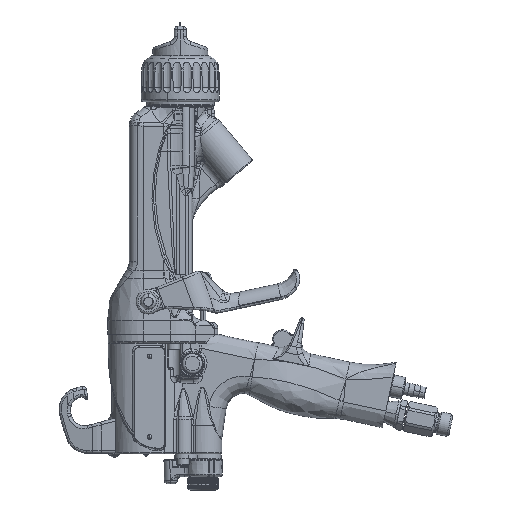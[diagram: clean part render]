
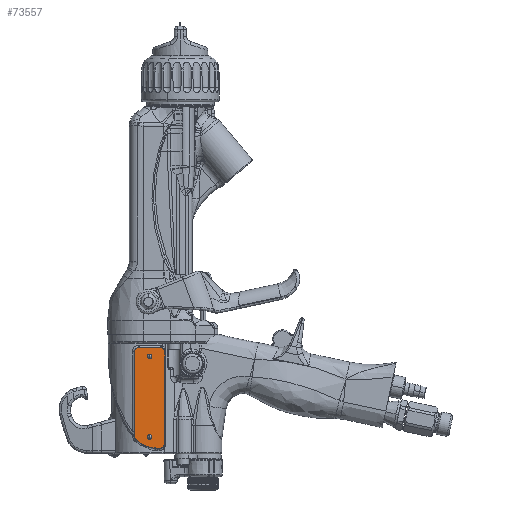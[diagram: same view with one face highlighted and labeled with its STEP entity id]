
A CAD part, left-side view. The second image highlights one B-rep face of the part: STEP entity #73557.
In plain terms, the highlighted planar face has unit normal (-1, -0.001, 0).
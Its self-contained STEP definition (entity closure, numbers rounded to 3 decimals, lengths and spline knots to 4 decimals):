
#65440=CARTESIAN_POINT('',(-0.7552,0.4544,-6.265));
#65441=DIRECTION('',(-1.,-0.001,0.));
#65442=DIRECTION('',(0.001,-1.,0.));
#65443=AXIS2_PLACEMENT_3D('',#65440,#65441,#65442);
#65445=DIRECTION('',(0.,0.,1.));
#65446=VECTOR('',#65445,2.062);
#65447=CARTESIAN_POINT('',(-0.7552,0.356,-8.327));
#65448=LINE('',#65447,#65446);
#65449=CARTESIAN_POINT('',(-0.7552,0.4544,-8.327));
#65450=DIRECTION('',(-1.,-0.001,0.));
#65451=DIRECTION('',(0.,0.,-1.));
#65452=AXIS2_PLACEMENT_3D('',#65449,#65450,#65451);
#65454=DIRECTION('',(0.001,-1.,0.));
#65455=VECTOR('',#65454,0.087);
#65456=CARTESIAN_POINT('',(-0.7553,0.5414,
-8.4255));
#65457=LINE('',#65456,#65455);
#65458=CARTESIAN_POINT('',(-0.7553,0.5414,-7.787));
#65459=DIRECTION('',(-1.,-0.001,0.));
#65460=DIRECTION('',(-0.001,0.713,-0.701));
#65461=AXIS2_PLACEMENT_3D('',#65458,#65459,#65460);
#65463=CARTESIAN_POINT('',(-0.7556,0.9194,
-8.1585));
#65464=DIRECTION('',(-1.,-0.001,0.));
#65465=DIRECTION('',(-0.001,1.,0.));
#65466=AXIS2_PLACEMENT_3D('',#65463,#65464,#65465);
#65468=DIRECTION('',(0.,0.,-1.));
#65469=VECTOR('',#65468,1.8935);
#65470=CARTESIAN_POINT('',(-0.7557,1.0279,-6.265));
#65471=LINE('',#65470,#65469);
#65472=CARTESIAN_POINT('',(-0.7556,0.9294,-6.265));
#65473=DIRECTION('',(-1.,-0.001,0.));
#65474=DIRECTION('',(0.,0.,1.));
#65475=AXIS2_PLACEMENT_3D('',#65472,#65473,#65474);
#65477=DIRECTION('',(0.001,-1.,0.));
#65478=VECTOR('',#65477,0.475);
#65479=CARTESIAN_POINT('',(-0.7556,0.9294,
-6.1665));
#65480=LINE('',#65479,#65478);
#70036=CARTESIAN_POINT('',(-0.7552,0.356,-6.265));
#70037=CARTESIAN_POINT('',(-0.7552,0.4544,
-6.1665));
#70038=VERTEX_POINT('',#70036);
#70039=VERTEX_POINT('',#70037);
#70040=CARTESIAN_POINT('',(-0.7556,0.9294,
-6.1665));
#70041=VERTEX_POINT('',#70040);
#70042=CARTESIAN_POINT('',(-0.7557,1.0279,-6.265));
#70043=VERTEX_POINT('',#70042);
#70044=CARTESIAN_POINT('',(-0.7557,1.0279,
-8.1585));
#70045=VERTEX_POINT('',#70044);
#70046=CARTESIAN_POINT('',(-0.7556,0.9968,
-8.2345));
#70047=VERTEX_POINT('',#70046);
#70048=CARTESIAN_POINT('',(-0.7553,0.5414,
-8.4255));
#70049=VERTEX_POINT('',#70048);
#70050=CARTESIAN_POINT('',(-0.7552,0.4544,
-8.4255));
#70051=VERTEX_POINT('',#70050);
#70052=CARTESIAN_POINT('',(-0.7552,0.356,-8.327));
#70053=VERTEX_POINT('',#70052);
#73532=CARTESIAN_POINT('',(-0.755,0.1294,-5.595));
#73533=DIRECTION('',(1.,0.001,0.));
#73534=DIRECTION('',(0.,0.,-1.));
#73535=AXIS2_PLACEMENT_3D('',#73532,#73533,#73534);
#73536=PLANE('',#73535);
#73538=ORIENTED_EDGE('',*,*,#73537,.F.);
#73540=ORIENTED_EDGE('',*,*,#73539,.F.);
#73542=ORIENTED_EDGE('',*,*,#73541,.F.);
#73544=ORIENTED_EDGE('',*,*,#73543,.F.);
#73546=ORIENTED_EDGE('',*,*,#73545,.F.);
#73548=ORIENTED_EDGE('',*,*,#73547,.F.);
#73550=ORIENTED_EDGE('',*,*,#73549,.F.);
#73552=ORIENTED_EDGE('',*,*,#73551,.F.);
#73554=ORIENTED_EDGE('',*,*,#73553,.T.);
#73555=EDGE_LOOP('',(#73538,#73540,#73542,#73544,#73546,#73548,#73550,#73552,
#73554));
#73556=FACE_OUTER_BOUND('',#73555,.F.);
#73557=ADVANCED_FACE('',(#73556),#73536,.F.);
#65444=CIRCLE('',#65443,0.0985);
#65453=CIRCLE('',#65452,0.0985);
#65462=CIRCLE('',#65461,0.6385);
#65467=CIRCLE('',#65466,0.1085);
#65476=CIRCLE('',#65475,0.0985);
#73537=EDGE_CURVE('',#70038,#70039,#65444,.T.);
#73539=EDGE_CURVE('',#70053,#70038,#65448,.T.);
#73541=EDGE_CURVE('',#70051,#70053,#65453,.T.);
#73543=EDGE_CURVE('',#70049,#70051,#65457,.T.);
#73545=EDGE_CURVE('',#70047,#70049,#65462,.T.);
#73547=EDGE_CURVE('',#70045,#70047,#65467,.T.);
#73549=EDGE_CURVE('',#70043,#70045,#65471,.T.);
#73551=EDGE_CURVE('',#70041,#70043,#65476,.T.);
#73553=EDGE_CURVE('',#70041,#70039,#65480,.T.);
